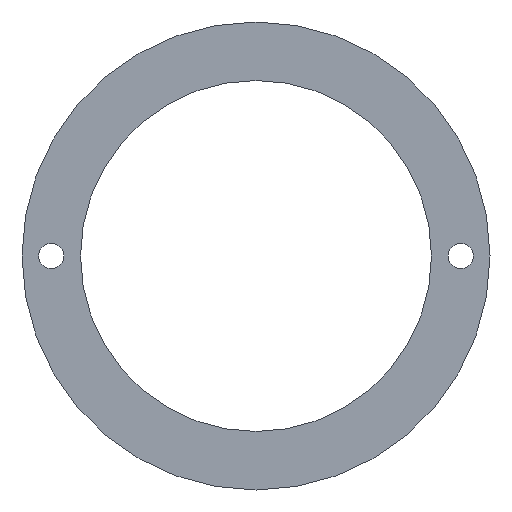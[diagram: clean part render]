
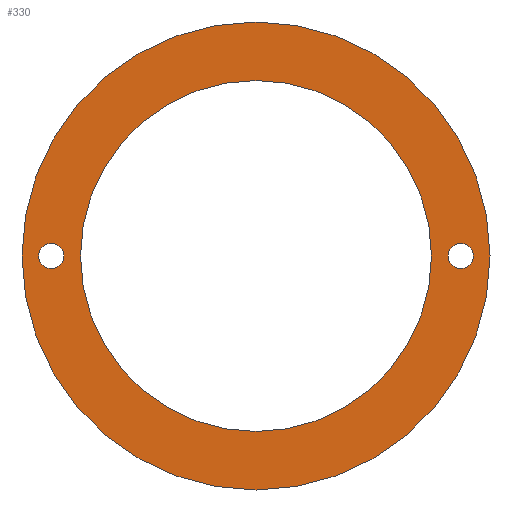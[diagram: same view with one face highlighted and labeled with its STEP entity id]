
A CAD part, front view. The second image highlights one B-rep face of the part: STEP entity #330.
In plain terms, the highlighted planar face has unit normal (0, -1, 0).
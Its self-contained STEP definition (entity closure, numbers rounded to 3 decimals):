
#3 = CARTESIAN_POINT ( 'NONE',  ( -52.5, 0., 3.25 ) ) ;
#8 = AXIS2_PLACEMENT_3D ( 'NONE', #280, #109, #335 ) ;
#13 = DIRECTION ( 'NONE',  ( 0., 1., 0. ) ) ;
#15 = ORIENTED_EDGE ( 'NONE', *, *, #155, .F. ) ;
#19 = VERTEX_POINT ( 'NONE', #320 ) ;
#22 = DIRECTION ( 'NONE',  ( 0., 1., 0. ) ) ;
#40 = CARTESIAN_POINT ( 'NONE',  ( 52.5, 0., 0. ) ) ;
#44 = FACE_BOUND ( 'NONE', #262, .T. ) ;
#46 = EDGE_CURVE ( 'NONE', #244, #68, #153, .T. ) ;
#50 = EDGE_CURVE ( 'NONE', #19, #275, #311, .T. ) ;
#53 = DIRECTION ( 'NONE',  ( 0., 1., 0. ) ) ;
#56 = CARTESIAN_POINT ( 'NONE',  ( 0., 0., 60. ) ) ;
#58 = AXIS2_PLACEMENT_3D ( 'NONE', #131, #333, #159 ) ;
#61 = FACE_OUTER_BOUND ( 'NONE', #129, .T. ) ;
#68 = VERTEX_POINT ( 'NONE', #228 ) ;
#71 = CARTESIAN_POINT ( 'NONE',  ( 0., 0., 0. ) ) ;
#80 = DIRECTION ( 'NONE',  ( 0., 0., 1. ) ) ;
#91 = DIRECTION ( 'NONE',  ( 0., 0., 1. ) ) ;
#92 = EDGE_LOOP ( 'NONE', ( #360, #277 ) ) ;
#93 = CIRCLE ( 'NONE', #58, 60. ) ;
#94 = DIRECTION ( 'NONE',  ( 0., 1., 0. ) ) ;
#104 = VERTEX_POINT ( 'NONE', #271 ) ;
#109 = DIRECTION ( 'NONE',  ( 0., 1., 0. ) ) ;
#115 = CIRCLE ( 'NONE', #192, 45. ) ;
#117 = CARTESIAN_POINT ( 'NONE',  ( 0., 0., 0. ) ) ;
#122 = DIRECTION ( 'NONE',  ( 0., 0., 1. ) ) ;
#126 = AXIS2_PLACEMENT_3D ( 'NONE', #117, #289, #91 ) ;
#128 = ORIENTED_EDGE ( 'NONE', *, *, #50, .T. ) ;
#129 = EDGE_LOOP ( 'NONE', ( #15, #226 ) ) ;
#131 = CARTESIAN_POINT ( 'NONE',  ( 0., 0., 0. ) ) ;
#132 = CARTESIAN_POINT ( 'NONE',  ( 0., 0., 0. ) ) ;
#135 = EDGE_CURVE ( 'NONE', #160, #104, #162, .T. ) ;
#138 = DIRECTION ( 'NONE',  ( 0., 1., 0. ) ) ;
#146 = CARTESIAN_POINT ( 'NONE',  ( -52.5, 0., 0. ) ) ;
#152 = EDGE_CURVE ( 'NONE', #104, #160, #115, .T. ) ;
#153 = CIRCLE ( 'NONE', #126, 60. ) ;
#155 = EDGE_CURVE ( 'NONE', #68, #244, #93, .T. ) ;
#159 = DIRECTION ( 'NONE',  ( 0., 0., 1. ) ) ;
#160 = VERTEX_POINT ( 'NONE', #272 ) ;
#162 = CIRCLE ( 'NONE', #174, 45. ) ;
#165 = CIRCLE ( 'NONE', #326, 3.25 ) ;
#170 = DIRECTION ( 'NONE',  ( 0., 0., 1. ) ) ;
#174 = AXIS2_PLACEMENT_3D ( 'NONE', #218, #53, #80 ) ;
#175 = DIRECTION ( 'NONE',  ( 0., 0., 1. ) ) ;
#178 = EDGE_CURVE ( 'NONE', #257, #328, #306, .T. ) ;
#179 = ORIENTED_EDGE ( 'NONE', *, *, #361, .T. ) ;
#184 = AXIS2_PLACEMENT_3D ( 'NONE', #40, #138, #170 ) ;
#192 = AXIS2_PLACEMENT_3D ( 'NONE', #132, #22, #278 ) ;
#203 = FACE_BOUND ( 'NONE', #255, .T. ) ;
#206 = ORIENTED_EDGE ( 'NONE', *, *, #135, .T. ) ;
#214 = AXIS2_PLACEMENT_3D ( 'NONE', #146, #323, #122 ) ;
#218 = CARTESIAN_POINT ( 'NONE',  ( 0., 0., 0. ) ) ;
#226 = ORIENTED_EDGE ( 'NONE', *, *, #46, .F. ) ;
#228 = CARTESIAN_POINT ( 'NONE',  ( 0., 0., -60. ) ) ;
#244 = VERTEX_POINT ( 'NONE', #56 ) ;
#246 = AXIS2_PLACEMENT_3D ( 'NONE', #71, #13, #175 ) ;
#255 = EDGE_LOOP ( 'NONE', ( #128, #179 ) ) ;
#257 = VERTEX_POINT ( 'NONE', #3 ) ;
#262 = EDGE_LOOP ( 'NONE', ( #206, #351 ) ) ;
#264 = CIRCLE ( 'NONE', #214, 3.25 ) ;
#268 = DIRECTION ( 'NONE',  ( 0., 0., 1. ) ) ;
#271 = CARTESIAN_POINT ( 'NONE',  ( 0., 0., 45. ) ) ;
#272 = CARTESIAN_POINT ( 'NONE',  ( 0., 0., -45. ) ) ;
#275 = VERTEX_POINT ( 'NONE', #337 ) ;
#277 = ORIENTED_EDGE ( 'NONE', *, *, #178, .T. ) ;
#278 = DIRECTION ( 'NONE',  ( 0., 0., 1. ) ) ;
#280 = CARTESIAN_POINT ( 'NONE',  ( -52.5, 0., 0. ) ) ;
#289 = DIRECTION ( 'NONE',  ( 0., 1., 0. ) ) ;
#290 = CARTESIAN_POINT ( 'NONE',  ( 52.5, 0., 0. ) ) ;
#296 = CARTESIAN_POINT ( 'NONE',  ( -52.5, 0., -3.25 ) ) ;
#304 = EDGE_CURVE ( 'NONE', #328, #257, #264, .T. ) ;
#306 = CIRCLE ( 'NONE', #8, 3.25 ) ;
#311 = CIRCLE ( 'NONE', #184, 3.25 ) ;
#320 = CARTESIAN_POINT ( 'NONE',  ( 52.5, 0., -3.25 ) ) ;
#321 = PLANE ( 'NONE',  #246 ) ;
#323 = DIRECTION ( 'NONE',  ( 0., 1., 0. ) ) ;
#326 = AXIS2_PLACEMENT_3D ( 'NONE', #290, #94, #268 ) ;
#328 = VERTEX_POINT ( 'NONE', #296 ) ;
#330 = ADVANCED_FACE ( 'NONE', ( #61, #44, #358, #203 ), #321, .F. ) ;
#333 = DIRECTION ( 'NONE',  ( 0., 1., 0. ) ) ;
#335 = DIRECTION ( 'NONE',  ( 0., 0., 1. ) ) ;
#337 = CARTESIAN_POINT ( 'NONE',  ( 52.5, 0., 3.25 ) ) ;
#351 = ORIENTED_EDGE ( 'NONE', *, *, #152, .T. ) ;
#358 = FACE_BOUND ( 'NONE', #92, .T. ) ;
#360 = ORIENTED_EDGE ( 'NONE', *, *, #304, .T. ) ;
#361 = EDGE_CURVE ( 'NONE', #275, #19, #165, .T. ) ;
